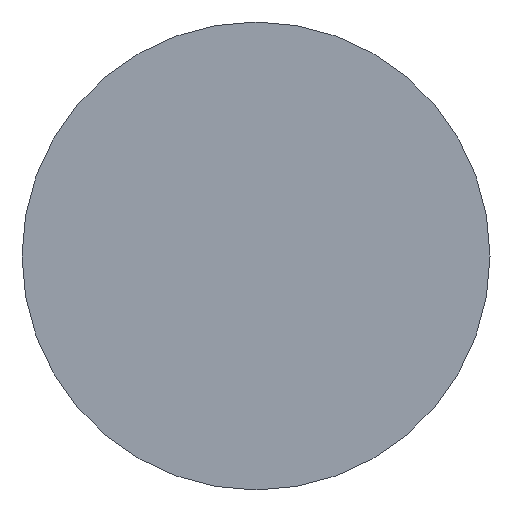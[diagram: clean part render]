
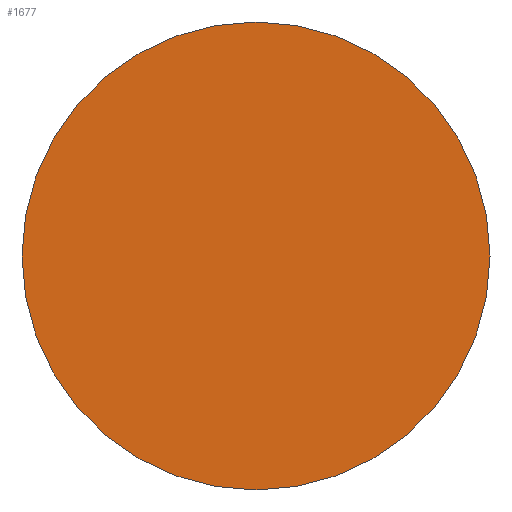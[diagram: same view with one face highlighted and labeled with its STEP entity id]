
A CAD part, front view. The second image highlights one B-rep face of the part: STEP entity #1677.
In plain terms, the highlighted planar face has unit normal (0, -1, 0).
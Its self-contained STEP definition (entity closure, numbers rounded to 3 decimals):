
#285 = DIRECTION ( 'NONE',  ( 1., 0., 0. ) ) ;
#303 = DIRECTION ( 'NONE',  ( 1., 0., 0. ) ) ;
#371 = DIRECTION ( 'NONE',  ( 0., -1., 0. ) ) ;
#435 = VERTEX_POINT ( 'NONE', #957 ) ;
#724 = DIRECTION ( 'NONE',  ( 1., 0., 0. ) ) ;
#938 = CARTESIAN_POINT ( 'NONE',  ( 0., -30., 0. ) ) ;
#957 = CARTESIAN_POINT ( 'NONE',  ( 41., -30., 0. ) ) ;
#1057 = ORIENTED_EDGE ( 'NONE', *, *, #4149, .T. ) ;
#1098 = ORIENTED_EDGE ( 'NONE', *, *, #2131, .T. ) ;
#1577 = FACE_OUTER_BOUND ( 'NONE', #2491, .T. ) ;
#1677 = ADVANCED_FACE ( 'NONE', ( #1577 ), #1904, .T. ) ;
#1904 = PLANE ( 'NONE',  #3591 ) ;
#2131 = EDGE_CURVE ( 'NONE', #435, #3559, #4205, .T. ) ;
#2368 = CARTESIAN_POINT ( 'NONE',  ( 0., -30., 0. ) ) ;
#2491 = EDGE_LOOP ( 'NONE', ( #1098, #1057 ) ) ;
#2752 = AXIS2_PLACEMENT_3D ( 'NONE', #2368, #3691, #724 ) ;
#2765 = CARTESIAN_POINT ( 'NONE',  ( -41., -30., 0. ) ) ;
#2836 = CARTESIAN_POINT ( 'NONE',  ( 41., -30., 0. ) ) ;
#3224 = DIRECTION ( 'NONE',  ( 0., -1., 0. ) ) ;
#3559 = VERTEX_POINT ( 'NONE', #2765 ) ;
#3591 = AXIS2_PLACEMENT_3D ( 'NONE', #2836, #3224, #285 ) ;
#3691 = DIRECTION ( 'NONE',  ( 0., -1., 0. ) ) ;
#3873 = CIRCLE ( 'NONE', #2752, 41. ) ;
#4135 = AXIS2_PLACEMENT_3D ( 'NONE', #938, #371, #303 ) ;
#4149 = EDGE_CURVE ( 'NONE', #3559, #435, #3873, .T. ) ;
#4205 = CIRCLE ( 'NONE', #4135, 41. ) ;
